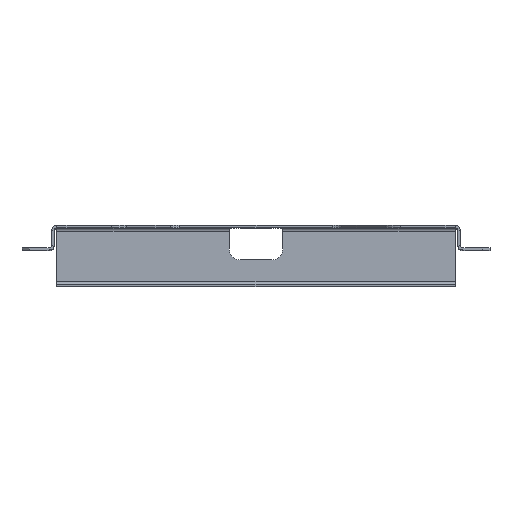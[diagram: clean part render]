
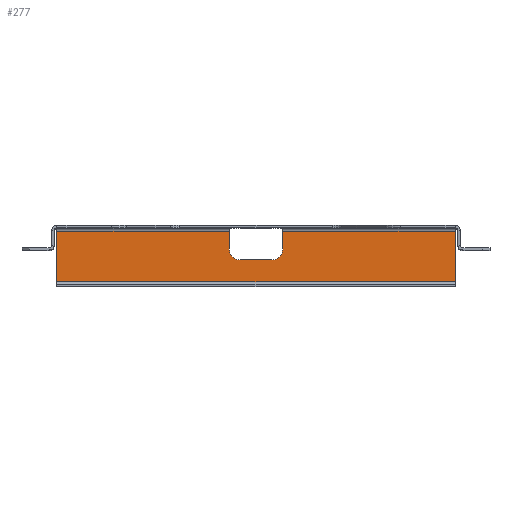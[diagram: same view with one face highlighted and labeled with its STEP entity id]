
A CAD part, top view. The second image highlights one B-rep face of the part: STEP entity #277.
In plain terms, the highlighted planar face has unit normal (0, 0, 1).
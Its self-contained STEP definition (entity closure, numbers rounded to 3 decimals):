
#92 = EDGE_CURVE ( 'NONE', #122, #2096, #211, .T. ) ;
#108 = CARTESIAN_POINT ( 'NONE',  ( -8.75, -12.75, -108.6 ) ) ;
#122 = VERTEX_POINT ( 'NONE', #3100 ) ;
#142 = DIRECTION ( 'NONE',  ( 0., 1., 0. ) ) ;
#179 = VERTEX_POINT ( 'NONE', #385 ) ;
#196 = VERTEX_POINT ( 'NONE', #2059 ) ;
#211 = LINE ( 'NONE', #2351, #327 ) ;
#277 = ADVANCED_FACE ( 'NONE', ( #2734 ), #2139, .F. ) ;
#284 = AXIS2_PLACEMENT_3D ( 'NONE', #2387, #2626, #2647 ) ;
#327 = VECTOR ( 'NONE', #2872, 1000. ) ;
#332 = CARTESIAN_POINT ( 'NONE',  ( 111.1, -1.4, -108.6 ) ) ;
#349 = CARTESIAN_POINT ( 'NONE',  ( -111.1, -31.1, -108.6 ) ) ;
#385 = CARTESIAN_POINT ( 'NONE',  ( -15., -2.9, -108.6 ) ) ;
#454 = EDGE_CURVE ( 'NONE', #2289, #1493, #2232, .T. ) ;
#461 = CARTESIAN_POINT ( 'NONE',  ( 8.75, -19., -108.6 ) ) ;
#567 = ORIENTED_EDGE ( 'NONE', *, *, #1215, .T. ) ;
#603 = DIRECTION ( 'NONE',  ( 0., 1., 0. ) ) ;
#679 = CARTESIAN_POINT ( 'NONE',  ( -111.1, -2.9, -108.6 ) ) ;
#758 = EDGE_CURVE ( 'NONE', #873, #196, #1229, .T. ) ;
#810 = AXIS2_PLACEMENT_3D ( 'NONE', #108, #2019, #603 ) ;
#854 = VECTOR ( 'NONE', #1445, 1000. ) ;
#873 = VERTEX_POINT ( 'NONE', #2821 ) ;
#898 = CARTESIAN_POINT ( 'NONE',  ( -15., -1.4, -108.6 ) ) ;
#902 = EDGE_CURVE ( 'NONE', #2666, #196, #2235, .T. ) ;
#942 = CARTESIAN_POINT ( 'NONE',  ( 15., -1.4, -108.6 ) ) ;
#971 = VECTOR ( 'NONE', #1134, 1000. ) ;
#1009 = EDGE_CURVE ( 'NONE', #2091, #179, #1897, .T. ) ;
#1027 = CARTESIAN_POINT ( 'NONE',  ( -111.1, -2.9, -108.6 ) ) ;
#1039 = DIRECTION ( 'NONE',  ( 1., 0., 0. ) ) ;
#1040 = VERTEX_POINT ( 'NONE', #3036 ) ;
#1134 = DIRECTION ( 'NONE',  ( 0., 1., 0. ) ) ;
#1139 = CARTESIAN_POINT ( 'NONE',  ( 8.75, -12.75, -108.6 ) ) ;
#1215 = EDGE_CURVE ( 'NONE', #873, #1040, #2813, .T. ) ;
#1228 = DIRECTION ( 'NONE',  ( -1., 0., 0. ) ) ;
#1229 = LINE ( 'NONE', #679, #1372 ) ;
#1259 = ORIENTED_EDGE ( 'NONE', *, *, #902, .T. ) ;
#1303 = LINE ( 'NONE', #1686, #3099 ) ;
#1372 = VECTOR ( 'NONE', #1855, 1000. ) ;
#1381 = VECTOR ( 'NONE', #2163, 1000. ) ;
#1445 = DIRECTION ( 'NONE',  ( 0., -1., 0. ) ) ;
#1493 = VERTEX_POINT ( 'NONE', #349 ) ;
#1545 = EDGE_LOOP ( 'NONE', ( #2471, #2690, #3120, #2936, #2291, #2830, #1259, #2334, #567, #1775 ) ) ;
#1580 = CARTESIAN_POINT ( 'NONE',  ( 111.1, -31.1, -108.6 ) ) ;
#1647 = EDGE_CURVE ( 'NONE', #122, #2091, #1940, .T. ) ;
#1686 = CARTESIAN_POINT ( 'NONE',  ( 111.1, -31.1, -108.6 ) ) ;
#1775 = ORIENTED_EDGE ( 'NONE', *, *, #2697, .T. ) ;
#1855 = DIRECTION ( 'NONE',  ( 1., 0., 0. ) ) ;
#1897 = LINE ( 'NONE', #898, #971 ) ;
#1940 = CIRCLE ( 'NONE', #810, 6.25 ) ;
#1962 = CARTESIAN_POINT ( 'NONE',  ( -111.1, -1.4, -108.6 ) ) ;
#1997 = DIRECTION ( 'NONE',  ( 0., 1., 0. ) ) ;
#2019 = DIRECTION ( 'NONE',  ( 0., 0., -1. ) ) ;
#2059 = CARTESIAN_POINT ( 'NONE',  ( 111.1, -2.9, -108.6 ) ) ;
#2077 = LINE ( 'NONE', #1027, #2957 ) ;
#2091 = VERTEX_POINT ( 'NONE', #2598 ) ;
#2096 = VERTEX_POINT ( 'NONE', #461 ) ;
#2139 = PLANE ( 'NONE',  #284 ) ;
#2163 = DIRECTION ( 'NONE',  ( 0., -1., 0. ) ) ;
#2202 = VECTOR ( 'NONE', #1997, 1000. ) ;
#2232 = LINE ( 'NONE', #1962, #854 ) ;
#2235 = LINE ( 'NONE', #332, #2202 ) ;
#2289 = VERTEX_POINT ( 'NONE', #3096 ) ;
#2291 = ORIENTED_EDGE ( 'NONE', *, *, #454, .T. ) ;
#2334 = ORIENTED_EDGE ( 'NONE', *, *, #758, .F. ) ;
#2351 = CARTESIAN_POINT ( 'NONE',  ( 111.1, -19., -108.6 ) ) ;
#2363 = EDGE_CURVE ( 'NONE', #2289, #179, #2077, .T. ) ;
#2387 = CARTESIAN_POINT ( 'NONE',  ( 111.1, -1.4, -108.6 ) ) ;
#2453 = CIRCLE ( 'NONE', #2899, 6.25 ) ;
#2471 = ORIENTED_EDGE ( 'NONE', *, *, #92, .F. ) ;
#2598 = CARTESIAN_POINT ( 'NONE',  ( -15., -12.75, -108.6 ) ) ;
#2626 = DIRECTION ( 'NONE',  ( 0., 0., -1. ) ) ;
#2647 = DIRECTION ( 'NONE',  ( 0., 1., 0. ) ) ;
#2666 = VERTEX_POINT ( 'NONE', #1580 ) ;
#2690 = ORIENTED_EDGE ( 'NONE', *, *, #1647, .T. ) ;
#2697 = EDGE_CURVE ( 'NONE', #1040, #2096, #2453, .T. ) ;
#2734 = FACE_OUTER_BOUND ( 'NONE', #1545, .T. ) ;
#2784 = DIRECTION ( 'NONE',  ( 0., 0., -1. ) ) ;
#2813 = LINE ( 'NONE', #942, #1381 ) ;
#2821 = CARTESIAN_POINT ( 'NONE',  ( 15., -2.9, -108.6 ) ) ;
#2830 = ORIENTED_EDGE ( 'NONE', *, *, #2893, .F. ) ;
#2872 = DIRECTION ( 'NONE',  ( 1., 0., 0. ) ) ;
#2893 = EDGE_CURVE ( 'NONE', #2666, #1493, #1303, .T. ) ;
#2899 = AXIS2_PLACEMENT_3D ( 'NONE', #1139, #2784, #142 ) ;
#2936 = ORIENTED_EDGE ( 'NONE', *, *, #2363, .F. ) ;
#2957 = VECTOR ( 'NONE', #1039, 1000. ) ;
#3036 = CARTESIAN_POINT ( 'NONE',  ( 15., -12.75, -108.6 ) ) ;
#3096 = CARTESIAN_POINT ( 'NONE',  ( -111.1, -2.9, -108.6 ) ) ;
#3099 = VECTOR ( 'NONE', #1228, 1000. ) ;
#3100 = CARTESIAN_POINT ( 'NONE',  ( -8.75, -19., -108.6 ) ) ;
#3120 = ORIENTED_EDGE ( 'NONE', *, *, #1009, .T. ) ;
